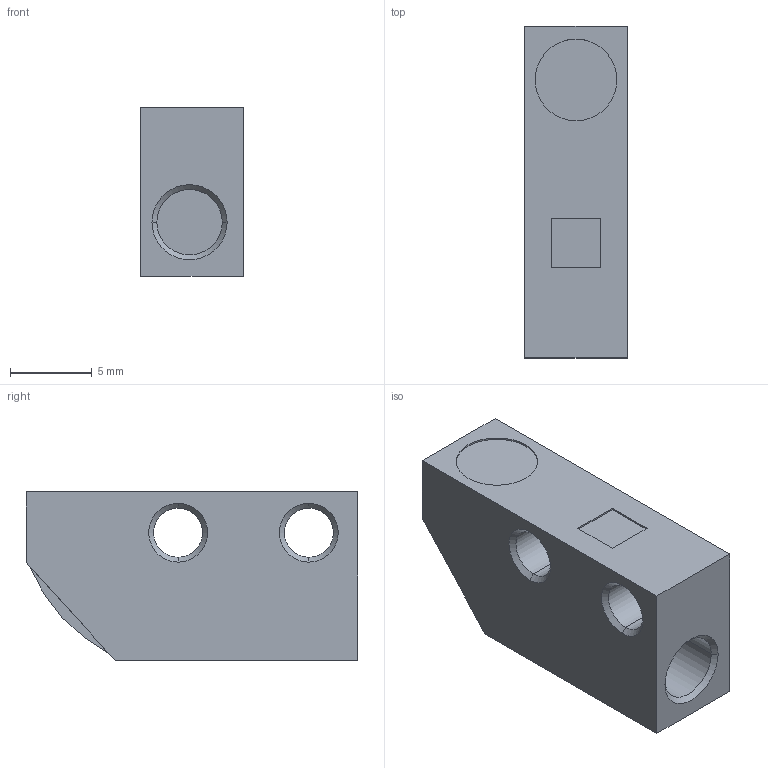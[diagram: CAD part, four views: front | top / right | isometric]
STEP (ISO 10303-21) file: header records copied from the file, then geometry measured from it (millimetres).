
FILE_DESCRIPTION (( 'STEP AP203' ), '1' );
FILE_NAME ('FX-MR5.STEP', '2005-09-08T02:48:26', ( '' ), ( '' ), 'SwSTEP 2.0', 'SolidWorks 2004073', '' );
FILE_SCHEMA (( 'CONFIG_CONTROL_DESIGN' ));
Length unit declared in the file: millimetre
Products named in the file (1): FX-MR5
Bounding box: 6.3 x 20.3 x 10.3 mm (x, y, z)
Volume: 994.7 mm3; surface area: 980.2 mm2
Topology: 1 solids, 1 shells, 35 faces, 77 edges, 48 vertices
Faces by surface type: plane 16, cone 10, cylinder 9
Entity records: 1044 total; most frequent: DIRECTION 177, CARTESIAN_POINT 161, ORIENTED_EDGE 154, EDGE_CURVE 77, AXIS2_PLACEMENT_3D 64, VECTOR 49, LINE 49, VERTEX_POINT 48
